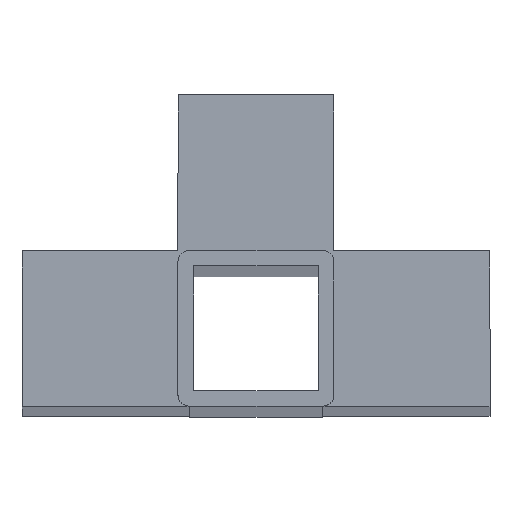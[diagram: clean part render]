
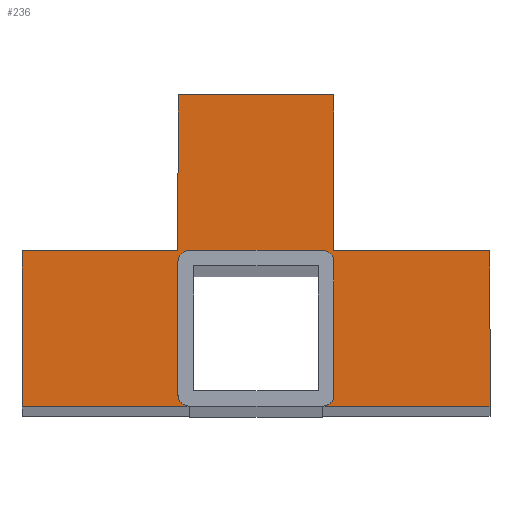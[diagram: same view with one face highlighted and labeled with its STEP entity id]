
A CAD part, top view. The second image highlights one B-rep face of the part: STEP entity #236.
In plain terms, the highlighted planar face has unit normal (0, 0, 1).
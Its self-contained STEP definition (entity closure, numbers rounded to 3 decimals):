
#13 = AXIS2_PLACEMENT_3D ( 'NONE', #171, #1282, #1059 ) ;
#14 = CARTESIAN_POINT ( 'NONE',  ( 0., 20., 700. ) ) ;
#23 = VERTEX_POINT ( 'NONE', #535 ) ;
#30 = CARTESIAN_POINT ( 'NONE',  ( -20., 0., 700. ) ) ;
#32 = CARTESIAN_POINT ( 'NONE',  ( -17., 20., 700. ) ) ;
#45 = VERTEX_POINT ( 'NONE', #1262 ) ;
#62 = EDGE_LOOP ( 'NONE', ( #1135, #512, #1162, #1069, #1334, #579, #1369, #604, #336, #861, #87, #1089, #1226, #449, #509, #846 ) ) ;
#87 = ORIENTED_EDGE ( 'NONE', *, *, #766, .F. ) ;
#155 = LINE ( 'NONE', #792, #813 ) ;
#159 = VECTOR ( 'NONE', #663, 1000. ) ;
#171 = CARTESIAN_POINT ( 'NONE',  ( -17., 17., 700. ) ) ;
#189 = DIRECTION ( 'NONE',  ( 0., -1., 0. ) ) ;
#216 = VECTOR ( 'NONE', #1340, 1000. ) ;
#231 = DIRECTION ( 'NONE',  ( 0., -1., 0. ) ) ;
#236 = ADVANCED_FACE ( 'NONE', ( #760 ), #1298, .T. ) ;
#251 = DIRECTION ( 'NONE',  ( 1., 0., 0. ) ) ;
#264 = EDGE_CURVE ( 'NONE', #271, #1353, #1571, .T. ) ;
#271 = VERTEX_POINT ( 'NONE', #32 ) ;
#275 = CARTESIAN_POINT ( 'NONE',  ( 20., 17., 700. ) ) ;
#276 = LINE ( 'NONE', #292, #343 ) ;
#279 = VERTEX_POINT ( 'NONE', #801 ) ;
#292 = CARTESIAN_POINT ( 'NONE',  ( 0., -20., 700. ) ) ;
#300 = DIRECTION ( 'NONE',  ( 1., 0., 0. ) ) ;
#312 = VERTEX_POINT ( 'NONE', #807 ) ;
#321 = CARTESIAN_POINT ( 'NONE',  ( 20., 20., 700. ) ) ;
#329 = LINE ( 'NONE', #870, #1309 ) ;
#336 = ORIENTED_EDGE ( 'NONE', *, *, #357, .F. ) ;
#339 = EDGE_CURVE ( 'NONE', #1597, #312, #1363, .T. ) ;
#340 = CARTESIAN_POINT ( 'NONE',  ( 0., -20., 700. ) ) ;
#343 = VECTOR ( 'NONE', #423, 1000. ) ;
#357 = EDGE_CURVE ( 'NONE', #983, #447, #664, .T. ) ;
#361 = CIRCLE ( 'NONE', #1125, 3. ) ;
#379 = DIRECTION ( 'NONE',  ( 0., 0., 1. ) ) ;
#396 = AXIS2_PLACEMENT_3D ( 'NONE', #1286, #549, #1157 ) ;
#402 = CARTESIAN_POINT ( 'NONE',  ( -20., -17., 700. ) ) ;
#423 = DIRECTION ( 'NONE',  ( -1., 0., 0. ) ) ;
#426 = VERTEX_POINT ( 'NONE', #827 ) ;
#447 = VERTEX_POINT ( 'NONE', #321 ) ;
#449 = ORIENTED_EDGE ( 'NONE', *, *, #858, .F. ) ;
#488 = VECTOR ( 'NONE', #822, 1000. ) ;
#499 = CARTESIAN_POINT ( 'NONE',  ( 17., 20., 700. ) ) ;
#509 = ORIENTED_EDGE ( 'NONE', *, *, #1472, .F. ) ;
#512 = ORIENTED_EDGE ( 'NONE', *, *, #1550, .T. ) ;
#535 = CARTESIAN_POINT ( 'NONE',  ( 60., 20., 700. ) ) ;
#549 = DIRECTION ( 'NONE',  ( 0., 0., 1. ) ) ;
#560 = DIRECTION ( 'NONE',  ( 1., 0., 0. ) ) ;
#576 = VECTOR ( 'NONE', #231, 1000. ) ;
#579 = ORIENTED_EDGE ( 'NONE', *, *, #1300, .F. ) ;
#585 = EDGE_CURVE ( 'NONE', #1294, #1597, #1288, .T. ) ;
#598 = CARTESIAN_POINT ( 'NONE',  ( -60., 0., 700. ) ) ;
#604 = ORIENTED_EDGE ( 'NONE', *, *, #1054, .F. ) ;
#619 = VECTOR ( 'NONE', #1593, 1000. ) ;
#632 = CARTESIAN_POINT ( 'NONE',  ( -20., 17., 700. ) ) ;
#642 = LINE ( 'NONE', #340, #1212 ) ;
#643 = DIRECTION ( 'NONE',  ( 0., 0., -1. ) ) ;
#663 = DIRECTION ( 'NONE',  ( 0., 1., 0. ) ) ;
#664 = LINE ( 'NONE', #814, #1476 ) ;
#725 = CARTESIAN_POINT ( 'NONE',  ( 60., -20., 700. ) ) ;
#735 = CARTESIAN_POINT ( 'NONE',  ( -20., 20., 700. ) ) ;
#759 = VECTOR ( 'NONE', #884, 1000. ) ;
#760 = FACE_OUTER_BOUND ( 'NONE', #62, .T. ) ;
#766 = EDGE_CURVE ( 'NONE', #1201, #426, #1297, .T. ) ;
#792 = CARTESIAN_POINT ( 'NONE',  ( 0., 60., 700. ) ) ;
#801 = CARTESIAN_POINT ( 'NONE',  ( 17., -20., 700. ) ) ;
#804 = LINE ( 'NONE', #14, #759 ) ;
#807 = CARTESIAN_POINT ( 'NONE',  ( 20., -17., 700. ) ) ;
#813 = VECTOR ( 'NONE', #300, 1000. ) ;
#814 = CARTESIAN_POINT ( 'NONE',  ( 20., 0., 700. ) ) ;
#822 = DIRECTION ( 'NONE',  ( 1., 0., 0. ) ) ;
#827 = CARTESIAN_POINT ( 'NONE',  ( -20., 60., 700. ) ) ;
#846 = ORIENTED_EDGE ( 'NONE', *, *, #975, .F. ) ;
#858 = EDGE_CURVE ( 'NONE', #877, #45, #276, .T. ) ;
#861 = ORIENTED_EDGE ( 'NONE', *, *, #1067, .F. ) ;
#870 = CARTESIAN_POINT ( 'NONE',  ( 0., 20., 700. ) ) ;
#877 = VERTEX_POINT ( 'NONE', #1547 ) ;
#881 = LINE ( 'NONE', #598, #216 ) ;
#884 = DIRECTION ( 'NONE',  ( 1., 0., 0. ) ) ;
#890 = CARTESIAN_POINT ( 'NONE',  ( -60., 20., 700. ) ) ;
#894 = CARTESIAN_POINT ( 'NONE',  ( 17., 17., 700. ) ) ;
#908 = DIRECTION ( 'NONE',  ( 1., 0., 0. ) ) ;
#930 = CARTESIAN_POINT ( 'NONE',  ( -20., 0., 700. ) ) ;
#975 = EDGE_CURVE ( 'NONE', #1353, #1449, #1600, .T. ) ;
#983 = VERTEX_POINT ( 'NONE', #1362 ) ;
#1001 = DIRECTION ( 'NONE',  ( -1., 0., 0. ) ) ;
#1015 = AXIS2_PLACEMENT_3D ( 'NONE', #894, #643, #251 ) ;
#1021 = VERTEX_POINT ( 'NONE', #725 ) ;
#1033 = LINE ( 'NONE', #1224, #619 ) ;
#1054 = EDGE_CURVE ( 'NONE', #447, #23, #1202, .T. ) ;
#1059 = DIRECTION ( 'NONE',  ( 1., 0., 0. ) ) ;
#1067 = EDGE_CURVE ( 'NONE', #426, #983, #155, .T. ) ;
#1069 = ORIENTED_EDGE ( 'NONE', *, *, #339, .T. ) ;
#1089 = ORIENTED_EDGE ( 'NONE', *, *, #1394, .F. ) ;
#1120 = EDGE_CURVE ( 'NONE', #279, #312, #1333, .T. ) ;
#1125 = AXIS2_PLACEMENT_3D ( 'NONE', #1389, #379, #908 ) ;
#1135 = ORIENTED_EDGE ( 'NONE', *, *, #264, .F. ) ;
#1157 = DIRECTION ( 'NONE',  ( 1., 0., 0. ) ) ;
#1162 = ORIENTED_EDGE ( 'NONE', *, *, #585, .T. ) ;
#1191 = DIRECTION ( 'NONE',  ( 0., 0., 1. ) ) ;
#1200 = EDGE_CURVE ( 'NONE', #45, #1467, #881, .T. ) ;
#1201 = VERTEX_POINT ( 'NONE', #735 ) ;
#1202 = LINE ( 'NONE', #1263, #488 ) ;
#1212 = VECTOR ( 'NONE', #1001, 1000. ) ;
#1224 = CARTESIAN_POINT ( 'NONE',  ( 60., 0., 700. ) ) ;
#1226 = ORIENTED_EDGE ( 'NONE', *, *, #1200, .F. ) ;
#1262 = CARTESIAN_POINT ( 'NONE',  ( -60., -20., 700. ) ) ;
#1263 = CARTESIAN_POINT ( 'NONE',  ( 0., 20., 700. ) ) ;
#1282 = DIRECTION ( 'NONE',  ( 0., 0., 1. ) ) ;
#1286 = CARTESIAN_POINT ( 'NONE',  ( 0., 0., 700. ) ) ;
#1287 = EDGE_CURVE ( 'NONE', #23, #1021, #1033, .T. ) ;
#1288 = CIRCLE ( 'NONE', #1015, 3. ) ;
#1294 = VERTEX_POINT ( 'NONE', #499 ) ;
#1297 = LINE ( 'NONE', #30, #159 ) ;
#1298 = PLANE ( 'NONE',  #396 ) ;
#1300 = EDGE_CURVE ( 'NONE', #1021, #279, #642, .T. ) ;
#1306 = AXIS2_PLACEMENT_3D ( 'NONE', #1443, #1191, #560 ) ;
#1309 = VECTOR ( 'NONE', #1513, 1000. ) ;
#1325 = DIRECTION ( 'NONE',  ( 0., -1., 0. ) ) ;
#1333 = CIRCLE ( 'NONE', #1306, 3. ) ;
#1334 = ORIENTED_EDGE ( 'NONE', *, *, #1120, .F. ) ;
#1340 = DIRECTION ( 'NONE',  ( 0., 1., 0. ) ) ;
#1353 = VERTEX_POINT ( 'NONE', #632 ) ;
#1362 = CARTESIAN_POINT ( 'NONE',  ( 20., 60., 700. ) ) ;
#1363 = LINE ( 'NONE', #1429, #1509 ) ;
#1369 = ORIENTED_EDGE ( 'NONE', *, *, #1287, .F. ) ;
#1389 = CARTESIAN_POINT ( 'NONE',  ( -17., -17., 700. ) ) ;
#1394 = EDGE_CURVE ( 'NONE', #1467, #1201, #329, .T. ) ;
#1429 = CARTESIAN_POINT ( 'NONE',  ( 20., 0., 700. ) ) ;
#1443 = CARTESIAN_POINT ( 'NONE',  ( 17., -17., 700. ) ) ;
#1449 = VERTEX_POINT ( 'NONE', #402 ) ;
#1467 = VERTEX_POINT ( 'NONE', #890 ) ;
#1472 = EDGE_CURVE ( 'NONE', #1449, #877, #361, .T. ) ;
#1476 = VECTOR ( 'NONE', #1325, 1000. ) ;
#1509 = VECTOR ( 'NONE', #189, 1000. ) ;
#1513 = DIRECTION ( 'NONE',  ( 1., 0., 0. ) ) ;
#1547 = CARTESIAN_POINT ( 'NONE',  ( -17., -20., 700. ) ) ;
#1550 = EDGE_CURVE ( 'NONE', #271, #1294, #804, .T. ) ;
#1571 = CIRCLE ( 'NONE', #13, 3. ) ;
#1593 = DIRECTION ( 'NONE',  ( 0., -1., 0. ) ) ;
#1597 = VERTEX_POINT ( 'NONE', #275 ) ;
#1600 = LINE ( 'NONE', #930, #576 ) ;
